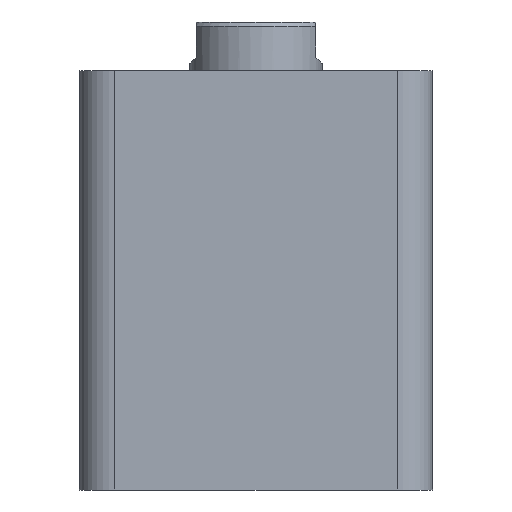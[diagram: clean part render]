
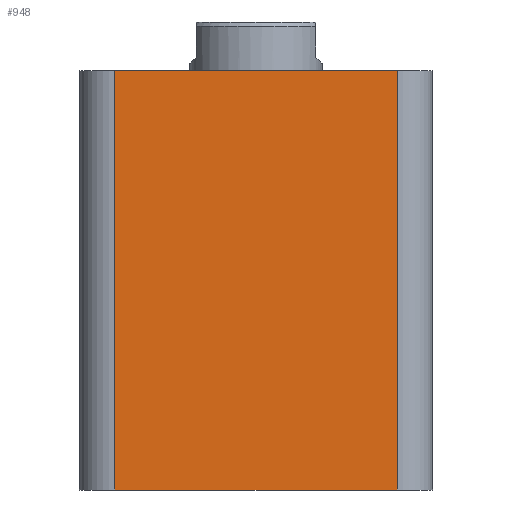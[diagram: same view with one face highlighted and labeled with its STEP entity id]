
A CAD part, front view. The second image highlights one B-rep face of the part: STEP entity #948.
In plain terms, the highlighted planar face has unit normal (0, -1, 0).
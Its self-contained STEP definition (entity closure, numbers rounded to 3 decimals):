
#372 = VERTEX_POINT ( 'NONE', #2143 ) ;
#415 = VERTEX_POINT ( 'NONE', #2137 ) ;
#579 = FACE_OUTER_BOUND ( 'NONE', #1373, .T. ) ;
#627 = VERTEX_POINT ( 'NONE', #2103 ) ;
#830 = VERTEX_POINT ( 'NONE', #2090 ) ;
#948 = ADVANCED_FACE ( 'NONE', ( #579 ), #1993, .F. ) ;
#961 = DIRECTION ( 'NONE',  ( 0., 0., 1. ) ) ;
#962 = CARTESIAN_POINT ( 'NONE',  ( 32., -40., 95. ) ) ;
#963 = DIRECTION ( 'NONE',  ( 0., 0., -1. ) ) ;
#964 = DIRECTION ( 'NONE',  ( 1., 0., 0. ) ) ;
#965 = DIRECTION ( 'NONE',  ( 1., 0., 0. ) ) ;
#966 = CARTESIAN_POINT ( 'NONE',  ( -40., -40., 95. ) ) ;
#968 = CARTESIAN_POINT ( 'NONE',  ( -32., -40., 95. ) ) ;
#983 = CARTESIAN_POINT ( 'NONE',  ( -40., -40., 0. ) ) ;
#1208 = AXIS2_PLACEMENT_3D ( 'NONE', #1996, #2055, #1991 ) ;
#1373 = EDGE_LOOP ( 'NONE', ( #1568, #1569, #1570, #1571 ) ) ;
#1568 = ORIENTED_EDGE ( 'NONE', *, *, #2218, .F. ) ;
#1569 = ORIENTED_EDGE ( 'NONE', *, *, #2219, .T. ) ;
#1570 = ORIENTED_EDGE ( 'NONE', *, *, #2220, .T. ) ;
#1571 = ORIENTED_EDGE ( 'NONE', *, *, #2221, .T. ) ;
#1991 = DIRECTION ( 'NONE',  ( 0., 0., 1. ) ) ;
#1993 = PLANE ( 'NONE',  #1208 ) ;
#1996 = CARTESIAN_POINT ( 'NONE',  ( -40., -40., 95. ) ) ;
#2055 = DIRECTION ( 'NONE',  ( 0., 1., 0. ) ) ;
#2090 = CARTESIAN_POINT ( 'NONE',  ( -32., -40., 0. ) ) ;
#2103 = CARTESIAN_POINT ( 'NONE',  ( 32., -40., 95. ) ) ;
#2137 = CARTESIAN_POINT ( 'NONE',  ( -32., -40., 95. ) ) ;
#2143 = CARTESIAN_POINT ( 'NONE',  ( 32., -40., 0. ) ) ;
#2218 = EDGE_CURVE ( 'NONE', #415, #627, #2554, .T. ) ;
#2219 = EDGE_CURVE ( 'NONE', #415, #830, #2552, .T. ) ;
#2220 = EDGE_CURVE ( 'NONE', #830, #372, #2564, .T. ) ;
#2221 = EDGE_CURVE ( 'NONE', #372, #627, #2549, .T. ) ;
#2546 = VECTOR ( 'NONE', #961, 1000. ) ;
#2548 = VECTOR ( 'NONE', #964, 1000. ) ;
#2549 = LINE ( 'NONE', #962, #2546 ) ;
#2550 = VECTOR ( 'NONE', #963, 1000. ) ;
#2551 = VECTOR ( 'NONE', #965, 1000. ) ;
#2552 = LINE ( 'NONE', #968, #2550 ) ;
#2554 = LINE ( 'NONE', #966, #2551 ) ;
#2564 = LINE ( 'NONE', #983, #2548 ) ;
